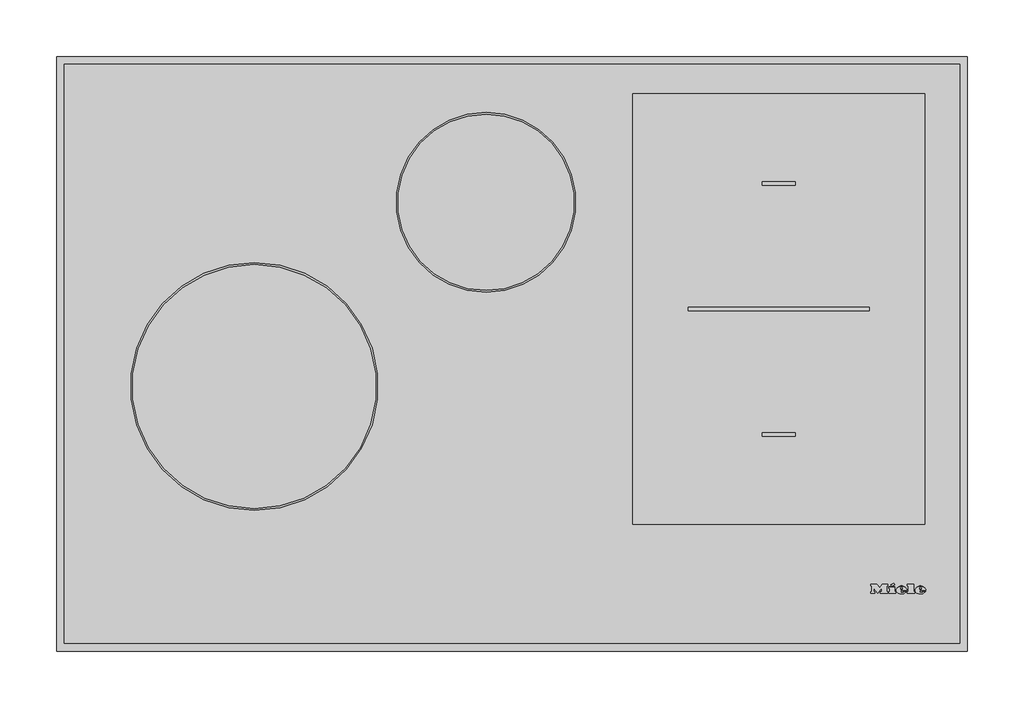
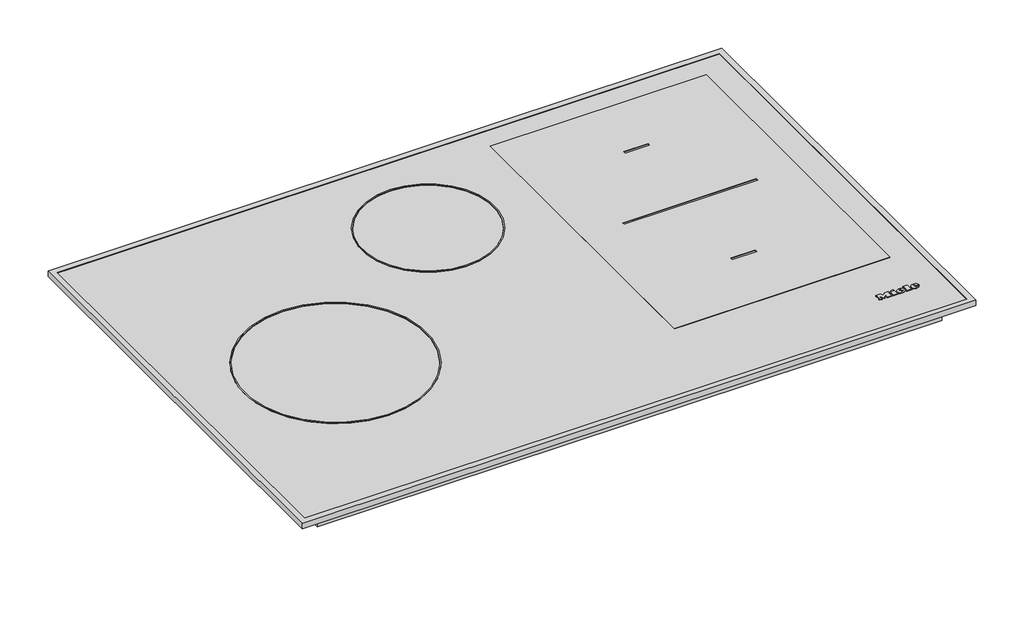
# Not in any storey: 1 proxy.
"""IFC4 building model written with IfcOpenShell, lengths in millimetres."""

import ifcopenshell
import ifcopenshell.guid

model = None  # the IFC model being written
_history = None  # IfcOwnerHistory: only IFC2X3 demands one
_inside = {}  # id of a spatial element -> (the spatial element, [elements in it])
_under = {}  # id of a project, library or spatial element -> (it, [spatial elements below it])
_declared = {}  # id of a project -> (the project, [libraries it declares])
_typed = {}  # id of a type object -> (the type object, [elements of that type])
_made_of = {}  # id of a material, layer set ... -> (it, [elements and type objects made of it])


def new_model(schema):
    """Start an empty IFC model of exactly this schema.

    Asked for "IFC4X3", IfcOpenShell would pick the latest addendum, in which some entities
    have other attributes; the version numbers below select the first issue.
    IFC2X3 requires an IfcOwnerHistory on every rooted entity: one is made here for all.
    """
    global model, _history
    if schema == "IFC4X3":
        model = ifcopenshell.file(schema_version=(4, 3, 0, 0))
    else:
        model = ifcopenshell.file(schema=schema)
    _inside.clear()
    _under.clear()
    _declared.clear()
    _typed.clear()
    _made_of.clear()
    _history = None
    if model.schema == "IFC2X3":
        org = make("IfcOrganization", Name="unknown")
        user = make(
            "IfcPersonAndOrganization",
            ThePerson=make("IfcPerson", FamilyName="unknown"),
            TheOrganization=org,
        )
        app = make(
            "IfcApplication",
            ApplicationDeveloper=org,
            Version="unknown",
            ApplicationFullName="unknown",
            ApplicationIdentifier="unknown",
        )
        _history = make(
            "IfcOwnerHistory",
            OwningUser=user,
            OwningApplication=app,
            ChangeAction="ADDED",
            CreationDate=0,
        )
    return model


def make(cls, **values):
    """One entity of the class cls with the attributes given. An attribute that is None is left unset."""
    return model.create_entity(
        cls, **{name: value for name, value in values.items() if value is not None}
    )


def rooted(cls, **values):
    """An entity with a GlobalId (a new one), such as an element, a storey or a relation."""
    return make(cls, GlobalId=ifcopenshell.guid.new(), OwnerHistory=_history, **values)


def si_unit(unit_type, name, prefix=None):
    """IfcSIUnit, for example si_unit("LENGTHUNIT", "METRE", prefix="MILLI")."""
    return make("IfcSIUnit", UnitType=unit_type, Prefix=prefix, Name=name)


def assignment(units):
    """IfcUnitAssignment: the units of a project."""
    return None if units is None else make("IfcUnitAssignment", Units=units)


def point(xyz):
    """IfcCartesianPoint."""
    return None if xyz is None else make("IfcCartesianPoint", Coordinates=xyz)


def direction(xyz):
    """IfcDirection."""
    return None if xyz is None else make("IfcDirection", DirectionRatios=xyz)


def frame(location, z_axis=None, x_axis=None):
    """IfcAxis2Placement3D, a coordinate frame: its origin and axes. An axis left out is left unset."""
    return make(
        "IfcAxis2Placement3D",
        Location=point(location),
        Axis=direction(z_axis),
        RefDirection=direction(x_axis),
    )


def frame_2d(location, x_axis=None):
    """IfcAxis2Placement2D, a coordinate frame in the plane: its origin and x axis."""
    return make(
        "IfcAxis2Placement2D", Location=point(location), RefDirection=direction(x_axis)
    )


def origin():
    """The frame at (0, 0, 0) with its axes left unset."""
    return frame((0.0, 0.0, 0.0))


def place(relative_to, where):
    """IfcLocalPlacement: puts the frame where relative to a parent placement (None: the world)."""
    return make(
        "IfcLocalPlacement", PlacementRelTo=relative_to, RelativePlacement=where
    )


def context(
    kind, dimensions, precision=None, world=None, true_north=None, identifier=None
):
    """IfcGeometricRepresentationContext, for example the 3D "Model" context."""
    return make(
        "IfcGeometricRepresentationContext",
        ContextIdentifier=identifier,
        ContextType=kind,
        CoordinateSpaceDimension=dimensions,
        Precision=precision,
        WorldCoordinateSystem=world,
        TrueNorth=true_north,
    )


def project(units=None, contexts=None):
    """IfcProject with its units and contexts."""
    return rooted(
        "IfcProject",
        Name="project",
        RepresentationContexts=contexts,
        UnitsInContext=assignment(units),
    )


def spatial(cls, under=None, at=None, **own):
    """A site, building, storey or space (cls), placed at a placement, below another one or the project."""
    s = rooted(cls, ObjectPlacement=at, **own)
    if under is not None:
        _under.setdefault(under.id(), (under, []))[1].append(s)
    return s


def polyline(points):
    """IfcPolyline through the points."""
    return make("IfcPolyline", Points=[point(p) for p in points])


def circle_curve(where, radius):
    """IfcCircle in the frame where."""
    return make("IfcCircle", Position=where, Radius=radius)


def ellipse_curve(where, semi_axis1, semi_axis2):
    """IfcEllipse in the frame where."""
    return make(
        "IfcEllipse", Position=where, SemiAxis1=semi_axis1, SemiAxis2=semi_axis2
    )


def trimmed(basis, trim1, trim2, sense, master):
    """IfcTrimmedCurve: the piece of a basis curve between two trims."""
    return make(
        "IfcTrimmedCurve",
        BasisCurve=basis,
        Trim1=trim1,
        Trim2=trim2,
        SenseAgreement=sense,
        MasterRepresentation=master,
    )


def segment(curve, same_sense, transition):
    """IfcCompositeCurveSegment."""
    return make(
        "IfcCompositeCurveSegment",
        Transition=transition,
        SameSense=same_sense,
        ParentCurve=curve,
    )


def composite_curve(segments, self_intersect=None):
    """IfcCompositeCurve: segments joined end to end."""
    return make("IfcCompositeCurve", Segments=segments, SelfIntersect=self_intersect)


def outline(outer, holes=None, kind="AREA"):
    """IfcArbitraryClosedProfileDef: a profile drawn as a closed curve; with holes, ...WithVoids."""
    if holes is None:
        return make("IfcArbitraryClosedProfileDef", ProfileType=kind, OuterCurve=outer)
    return make(
        "IfcArbitraryProfileDefWithVoids",
        ProfileType=kind,
        OuterCurve=outer,
        InnerCurves=holes,
    )


def extrude(swept, where, along, depth):
    """IfcExtrudedAreaSolid: the profile swept, set in the frame where, extruded along a direction by depth."""
    return make(
        "IfcExtrudedAreaSolid",
        SweptArea=swept,
        Position=where,
        ExtrudedDirection=direction(along),
        Depth=depth,
    )


def faces_of(points, faces, orient=None, outer=None):
    """IfcFace entities. A face is a list of loops; a loop is a list of indices into points, from 0.

    orient and outer hold one flag for each loop. By default every Orientation is true, the
    first loop of a face is its IfcFaceOuterBound and the others are IfcFaceBound.
    """
    made = []
    for i, loops in enumerate(faces):
        bounds = []
        for j, loop in enumerate(loops):
            is_outer = j == 0 if outer is None else outer[i][j]
            bounds.append(
                make(
                    "IfcFaceOuterBound" if is_outer else "IfcFaceBound",
                    Bound=make("IfcPolyLoop", Polygon=[points[k] for k in loop]),
                    Orientation=True if orient is None else orient[i][j],
                )
            )
        made.append(make("IfcFace", Bounds=bounds))
    return made


def faceted_brep(points, faces, orient=None, outer=None, voids=None):
    """IfcFacetedBrep: a solid bounded by flat faces; with voids (closed shells), ...WithVoids."""
    shared = [point(p) for p in points]
    hull = make("IfcClosedShell", CfsFaces=faces_of(shared, faces, orient, outer))
    if voids is None:
        return make("IfcFacetedBrep", Outer=hull)
    return make(
        "IfcFacetedBrepWithVoids",
        Outer=hull,
        Voids=[
            make(cls, CfsFaces=faces_of(shared, fs, o, b)) for cls, fs, o, b in voids
        ],
    )


def shape(context_of_items, identifier, shape_type, items):
    """IfcShapeRepresentation: the items that make up one representation, for example the "Body"."""
    return make(
        "IfcShapeRepresentation",
        ContextOfItems=context_of_items,
        RepresentationIdentifier=identifier,
        RepresentationType=shape_type,
        Items=items,
    )


def source(mapping_origin, context_of_items, identifier, shape_type, items):
    """IfcRepresentationMap: a shape defined once, which mapped items show again and again."""
    return make(
        "IfcRepresentationMap",
        MappingOrigin=mapping_origin,
        MappedRepresentation=shape(context_of_items, identifier, shape_type, items),
    )


def transform(
    local_origin,
    x_axis=None,
    y_axis=None,
    z_axis=None,
    scale=None,
    scale2=None,
    scale3=None,
    uniform=True,
):
    """IfcCartesianTransformationOperator3D, or its non-uniform kind. x_axis, y_axis, z_axis: its Axis1, 2, 3."""
    if uniform:
        return make(
            "IfcCartesianTransformationOperator3D",
            Axis1=direction(x_axis),
            Axis2=direction(y_axis),
            LocalOrigin=point(local_origin),
            Scale=scale,
            Axis3=direction(z_axis),
        )
    return make(
        "IfcCartesianTransformationOperator3DnonUniform",
        Axis1=direction(x_axis),
        Axis2=direction(y_axis),
        LocalOrigin=point(local_origin),
        Scale=scale,
        Axis3=direction(z_axis),
        Scale2=scale2,
        Scale3=scale3,
    )


def mapped(mapping_source, mapping_target):
    """IfcMappedItem: shows the shape of a source again, moved by a transform."""
    return make(
        "IfcMappedItem", MappingSource=mapping_source, MappingTarget=mapping_target
    )


def made_of(thing, what):
    """Note that an element or type object is made of a material, layer set ...; save() writes the relation."""
    if what is not None:
        _made_of.setdefault(what.id(), (what, []))[1].append(thing)
    return thing


def element(
    cls,
    number,
    at=None,
    inside=None,
    cuts=None,
    type_object=None,
    material=None,
    context=None,
    identifier="Body",
    shape_type=None,
    held_by="IfcProductDefinitionShape",
    body=None,
    shapes=None,
    **own,
):
    """One element of the class cls, such as IfcWall. Its Tag is "e" and its number.

    at: its placement. inside: the storey or other place that contains it. cuts: it is an
    opening in that element (IfcRelVoidsElement). A single representation is given by context,
    identifier, shape_type and body (its items); several are given by shapes. held_by: the class
    of the entity that holds the representations. save() writes the other relations.
    """
    e = rooted(cls, Tag="e%d" % number, ObjectPlacement=at, **own)
    if body is not None:
        shapes = [shape(context, identifier, shape_type, body)]
    if shapes is not None:
        e.Representation = make(held_by, Representations=shapes)
    if inside is not None:
        _inside.setdefault(inside.id(), (inside, []))[1].append(e)
    if cuts is not None:
        rooted(
            "IfcRelVoidsElement", RelatingBuildingElement=cuts, RelatedOpeningElement=e
        )
    if type_object is not None:
        _typed.setdefault(type_object.id(), (type_object, []))[1].append(e)
    return made_of(e, material)


def aggregate(whole, parts):
    """IfcRelAggregates: a whole, such as a stair, and the parts it consists of."""
    return rooted("IfcRelAggregates", RelatingObject=whole, RelatedObjects=parts)


def save(model, path):
    """Write the relations noted so far, then the file.

    IfcRelAggregates (storeys below a building ...), IfcRelContainedInSpatialStructure (elements
    in a storey), IfcRelDefinesByType, IfcRelAssociatesMaterial and IfcRelDeclares: one each for
    every whole, place, type object, material and project.
    """
    for whole, parts in _under.values():
        aggregate(whole, parts)
    for where, things in _inside.values():
        rooted(
            "IfcRelContainedInSpatialStructure",
            RelatedElements=things,
            RelatingStructure=where,
        )
    for kind, things in _typed.values():
        rooted("IfcRelDefinesByType", RelatedObjects=things, RelatingType=kind)
    for what, things in _made_of.values():
        rooted("IfcRelAssociatesMaterial", RelatedObjects=things, RelatingMaterial=what)
    for by, libraries in _declared.values():
        rooted("IfcRelDeclares", RelatingContext=by, RelatedDefinitions=libraries)
    model.write(path)


def plane_surface(at):
    """IfcPlane: the flat surface through the origin of the frame at, square to its z axis."""
    return make("IfcPlane", Position=at)


def cylinder_surface(at, radius):
    """IfcCylindricalSurface: all points at the distance radius from the z axis of the frame at."""
    return make("IfcCylindricalSurface", Position=at, Radius=radius)


def revolved_surface(curve, axis_point, axis_direction):
    """IfcSurfaceOfRevolution: the curve turned about the line through axis_point along axis_direction."""
    return make(
        "IfcSurfaceOfRevolution",
        SweptCurve=make("IfcArbitraryOpenProfileDef", ProfileType="CURVE", Curve=curve),
        AxisPosition=make("IfcAxis1Placement", Location=point(axis_point), Axis=direction(axis_direction)),
    )


def extruded_surface(curve, direction_of_extrusion, depth):
    """IfcSurfaceOfLinearExtrusion: the curve pushed along a direction by depth."""
    return make(
        "IfcSurfaceOfLinearExtrusion",
        SweptCurve=make("IfcArbitraryOpenProfileDef", ProfileType="CURVE", Curve=curve),
        ExtrudedDirection=direction(direction_of_extrusion),
        Depth=depth,
    )


def advanced_brep(points, edges, surfaces, faces):
    """IfcAdvancedBrep: a solid bounded by faces that lie on surfaces and meet in shared edges.

    An edge is (start, end): straight between two places in points (the first is 0);
    or (start, end, curve); or (start, end, curve, False) where it runs against its curve.
    A face is (place in surfaces, loops), or (place, loops, False) where it looks against
    its surface's normal. A loop lists edges by number (the first is 1), with a minus sign
    where the edge is run from its end to its start. The first loop is the outer one.
    """
    corners = [point(p) for p in points]
    vertices = [make("IfcVertexPoint", VertexGeometry=c) for c in corners]
    made = []
    for start, end, *more in edges:
        made.append(
            make(
                "IfcEdgeCurve",
                EdgeStart=vertices[start],
                EdgeEnd=vertices[end],
                EdgeGeometry=more[0] if more else make("IfcPolyline", Points=[corners[start], corners[end]]),
                SameSense=more[1] if len(more) > 1 else True,
            )
        )
    hull = []
    for where, loops, *sense in faces:
        bounds = []
        for j, loop in enumerate(loops):
            ring = [make("IfcOrientedEdge", EdgeElement=made[abs(k) - 1], Orientation=k > 0) for k in loop]
            bounds.append(
                make(
                    "IfcFaceOuterBound" if j == 0 else "IfcFaceBound",
                    Bound=make("IfcEdgeLoop", EdgeList=ring),
                    Orientation=True,
                )
            )
        hull.append(make("IfcAdvancedFace", Bounds=bounds, FaceSurface=surfaces[where], SameSense=sense[0] if sense else True))
    return make("IfcAdvancedBrep", Outer=make("IfcClosedShell", CfsFaces=hull))


def specialty_equipment_a710ed4d(model_context):
    return source(origin(), model_context, "Body", "SolidModel", [
        advanced_brep(
        [(360.648, 52.8948833, 6.9922537), (360.648, 53.7028828, 6.9931551), (366.0, 53.7028828, 6.9931551), (356.688, 53.7028828, 6.9931551), (358.888, 50.9988845, 6.9901386), (365.864, 52.8948833, 6.9922537), (363.448, 52.8948833, 6.9922537), (361.544, 51.9988838, 6.9912542), (360.648, 54.7268821, 6.9942974), (360.648, 55.5988816, 6.9952701), (362.016, 55.5988816, 6.9952701), (362.016, 54.7268821, 6.9942974), (360.648, 52.8959988, 5.9922543), (361.544, 51.9999994, 5.9912548), (363.448, 52.8959988, 5.9922543), (365.864, 52.8959988, 5.9922543), (358.888, 51.0, 5.9901393), (356.688, 53.7039983, 5.9931557), (366.0, 53.7039983, 5.9931557), (360.648, 53.7039983, 5.9931557), (360.648, 54.7279977, 5.994298), (362.016, 54.7279977, 5.994298), (362.016, 55.5999971, 5.9952707), (360.648, 55.5999971, 5.9952707)],
        [
            (0, 1),
            (1, 2),
            (2, 3, ellipse_curve(frame((361.344, 53.7028828, 6.9931551), z_axis=(0.0, -0.0011155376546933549, 0.9999993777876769), x_axis=(-1.0, 0.0, 0.0)), 4.656, 3.848)),
            (3, 4, circle_curve(frame((359.7840436, 53.9748826, 6.9934585), z_axis=(0.0, -0.0011155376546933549, 0.9999993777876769), x_axis=(0.0, -0.9999993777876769, -0.0011155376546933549)), 3.1079688)),
            (4, 5, circle_curve(frame((361.2507936, 56.0868813, 6.9958145), z_axis=(0.0, -0.0011155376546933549, 0.9999993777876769), x_axis=(0.0, -0.9999993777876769, -0.0011155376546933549)), 5.6098607)),
            (5, 6),
            (6, 7, circle_curve(frame((361.9350588, 53.6388828, 6.9930837), z_axis=(0.0, 0.0011155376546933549, -0.9999993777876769), x_axis=(0.0, -0.9999993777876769, -0.0011155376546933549)), 1.6859795)),
            (7, 0, circle_curve(frame((361.544, 52.8948833, 6.9922537), z_axis=(0.0, 0.0011155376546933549, -0.9999993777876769), x_axis=(0.0, -0.9999993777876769, -0.0011155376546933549)), 0.896)),
            (8, 9),
            (9, 10, circle_curve(frame((361.332, 55.5988816, 6.9952701), z_axis=(0.0, 0.0011155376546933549, -0.9999993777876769), x_axis=(0.0, -0.9999993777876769, -0.0011155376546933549)), 0.684)),
            (10, 11),
            (11, 8),
            (12, 13, circle_curve(frame((361.544, 52.8959988, 5.9922543), z_axis=(0.0, -0.0011155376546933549, 0.9999993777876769), x_axis=(0.0, -0.9999993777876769, -0.0011155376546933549)), 0.896)),
            (13, 14, circle_curve(frame((361.9350588, 53.6399984, 5.9930843), z_axis=(0.0, -0.0011155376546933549, 0.9999993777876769), x_axis=(0.0, -0.9999993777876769, -0.0011155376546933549)), 1.6859795)),
            (14, 15),
            (15, 16, circle_curve(frame((361.2507936, 56.0879968, 5.9958151), z_axis=(0.0, 0.0011155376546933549, -0.9999993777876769), x_axis=(0.0, -0.9999993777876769, -0.0011155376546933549)), 5.6098607)),
            (16, 17, circle_curve(frame((359.7840436, 53.9759981, 5.9934591), z_axis=(0.0, 0.0011155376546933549, -0.9999993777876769), x_axis=(0.0, -0.9999993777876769, -0.0011155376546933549)), 3.1079688)),
            (17, 18, ellipse_curve(frame((361.344, 53.7039983, 5.9931557), z_axis=(0.0, 0.0011155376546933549, -0.9999993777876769), x_axis=(-1.0, 0.0, 0.0)), 4.656, 3.848)),
            (18, 19),
            (19, 12),
            (20, 21),
            (21, 22),
            (22, 23, circle_curve(frame((361.332, 55.5999971, 5.9952707), z_axis=(0.0, -0.0011155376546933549, 0.9999993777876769), x_axis=(0.0, -0.9999993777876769, -0.0011155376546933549)), 0.684)),
            (23, 20),
            (0, 12),
            (19, 1),
            (18, 2),
            (5, 15),
            (14, 6),
            (17, 3),
            (13, 7),
            (16, 4),
            (8, 20),
            (23, 9),
            (22, 10),
            (21, 11),
        ],
        [
            plane_surface(frame((360.648, 53.7028828, 6.9931551), z_axis=(0.0, -0.0011155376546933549, 0.9999993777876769), x_axis=(0.0, 0.9999993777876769, 0.0011155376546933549))),
            plane_surface(frame((360.648, 53.7039983, 5.9931557), z_axis=(0.0, 0.0011155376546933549, -0.9999993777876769), x_axis=(0.0, -0.9999993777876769, -0.0011155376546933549))),
            plane_surface(frame((360.648, 52.8948833, 6.9922537), z_axis=(1.0000000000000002, 0.0, 0.0), x_axis=(0.0, 0.001115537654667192, -0.999999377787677))),
            plane_surface(frame((360.648, 53.7028828, 6.9931551), z_axis=(0.0, -0.999999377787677, -0.001115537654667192), x_axis=(0.0, 0.001115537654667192, -0.999999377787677))),
            plane_surface(frame((365.864, 52.8948833, 6.9922537), z_axis=(0.0, 0.999999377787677, 0.001115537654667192), x_axis=(0.0, 0.001115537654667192, -0.999999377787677))),
            extruded_surface(trimmed(ellipse_curve(frame((361.344, 53.7051139, 4.9931563), z_axis=(0.0, -0.0011155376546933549, 0.9999993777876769), x_axis=(-1.0, 0.0, 0.0)), 4.656, 3.848), [point((366.0, 53.7051139, 4.9931563))], [point((356.688, 53.7051139, 4.9931563))], True, "CARTESIAN"), (0.0, -0.001115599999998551, 0.9999994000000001), 1.00000002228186),
            revolved_surface(polyline([(361.9350588, 51.954019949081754, 5.991203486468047), (361.9350588, 51.95290441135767, 6.99120292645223)]), (361.9350588, 53.6399984, 5.9930843), (0.0, 0.0011155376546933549, -0.9999993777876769)),
            revolved_surface(polyline([(361.544, 51.99999935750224, 5.9912547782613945), (361.544, 51.99888381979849, 6.991254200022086)]), (361.544, 52.8959988, 5.9922543), (0.0, 0.0011155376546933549, -0.9999993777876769)),
            cylinder_surface(frame((359.7840436, 53.9759981, 5.9934591), z_axis=(0.0, -0.0011155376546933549, 0.9999993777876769), x_axis=(0.0, -0.9999993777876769, -0.0011155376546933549)), 3.1079688),
            cylinder_surface(frame((361.2507936, 56.0879968, 5.9958151), z_axis=(0.0, -0.0011155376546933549, 0.9999993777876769), x_axis=(0.0, -0.9999993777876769, -0.0011155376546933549)), 5.6098607),
            plane_surface(frame((360.648, 54.7268821, 6.9942974), z_axis=(1.0000000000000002, 0.0, 0.0), x_axis=(0.0, 0.001115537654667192, -0.999999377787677))),
            revolved_surface(polyline([(361.332, 54.915997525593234, 5.99450767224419), (361.332, 54.91488198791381, 6.994507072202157)]), (361.332, 55.5999971, 5.9952707), (0.0, 0.0011155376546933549, -0.9999993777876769)),
            plane_surface(frame((362.016, 55.5988816, 6.9952701), z_axis=(-1.0000000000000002, 0.0, 0.0), x_axis=(0.0, 0.001115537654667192, -0.999999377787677))),
            plane_surface(frame((362.016, 54.7268821, 6.9942974), z_axis=(0.0, 0.999999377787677, 0.001115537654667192), x_axis=(0.0, 0.001115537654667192, -0.999999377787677))),
        ],
        [
            (0, [[1, 2, 3, 4, 5, 6, 7, 8], [9, 10, 11, 12]]),
            (1, [[13, 14, 15, 16, 17, 18, 19, 20], [21, 22, 23, 24]]),
            (2, [[-1, 25, -20, 26]]),
            (3, [[-2, -26, -19, 27]]),
            (4, [[-6, 28, -15, 29]]),
            (5, [[-3, -27, -18, 30]]),
            (6, [[-7, -29, -14, 31]]),
            (7, [[-8, -31, -13, -25]]),
            (8, [[-4, -30, -17, 32]]),
            (9, [[-5, -32, -16, -28]]),
            (10, [[-9, 33, -24, 34]]),
            (11, [[-10, -34, -23, 35]]),
            (12, [[-11, -35, -22, 36]]),
            (13, [[-12, -36, -21, -33]]),
        ],
    ),
        advanced_brep(
        [(343.952, 52.8948833, 6.9922537), (343.952, 53.7028828, 6.9931551), (349.304, 53.7028828, 6.9931551), (339.992, 53.7028828, 6.9931551), (342.192, 50.9988845, 6.9901386), (349.168, 52.8948833, 6.9922537), (346.752, 52.8948833, 6.9922537), (344.848, 51.9988838, 6.9912542), (343.952, 54.7268821, 6.9942974), (343.952, 55.5988816, 6.9952701), (345.32, 55.5988816, 6.9952701), (345.32, 54.7268821, 6.9942974), (343.952, 52.8959988, 5.9922543), (344.848, 51.9999994, 5.9912548), (346.752, 52.8959988, 5.9922543), (349.168, 52.8959988, 5.9922543), (342.192, 51.0, 5.9901393), (339.992, 53.7039983, 5.9931557), (349.304, 53.7039983, 5.9931557), (343.952, 53.7039983, 5.9931557), (343.952, 54.7279977, 5.994298), (345.32, 54.7279977, 5.994298), (345.32, 55.5999971, 5.9952707), (343.952, 55.5999971, 5.9952707)],
        [
            (0, 1),
            (1, 2),
            (2, 3, ellipse_curve(frame((344.648, 53.7028828, 6.9931551), z_axis=(0.0, -0.0011155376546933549, 0.9999993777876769), x_axis=(-1.0, 0.0, 0.0)), 4.656, 3.848)),
            (3, 4, circle_curve(frame((343.0880436, 53.9748826, 6.9934585), z_axis=(0.0, -0.0011155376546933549, 0.9999993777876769), x_axis=(0.0, -0.9999993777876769, -0.0011155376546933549)), 3.1079688)),
            (4, 5, circle_curve(frame((344.5547936, 56.0868813, 6.9958145), z_axis=(0.0, -0.0011155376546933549, 0.9999993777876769), x_axis=(0.0, -0.9999993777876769, -0.0011155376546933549)), 5.6098607)),
            (5, 6),
            (6, 7, circle_curve(frame((345.2390588, 53.6388828, 6.9930837), z_axis=(0.0, 0.0011155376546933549, -0.9999993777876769), x_axis=(0.0, -0.9999993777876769, -0.0011155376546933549)), 1.6859795)),
            (7, 0, circle_curve(frame((344.848, 52.8948833, 6.9922537), z_axis=(0.0, 0.0011155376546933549, -0.9999993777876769), x_axis=(0.0, -0.9999993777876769, -0.0011155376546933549)), 0.896)),
            (8, 9),
            (9, 10, circle_curve(frame((344.636, 55.5988816, 6.9952701), z_axis=(0.0, 0.0011155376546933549, -0.9999993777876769), x_axis=(0.0, -0.9999993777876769, -0.0011155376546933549)), 0.684)),
            (10, 11),
            (11, 8),
            (12, 13, circle_curve(frame((344.848, 52.8959988, 5.9922543), z_axis=(0.0, -0.0011155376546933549, 0.9999993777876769), x_axis=(0.0, -0.9999993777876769, -0.0011155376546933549)), 0.896)),
            (13, 14, circle_curve(frame((345.2390588, 53.6399984, 5.9930843), z_axis=(0.0, -0.0011155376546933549, 0.9999993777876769), x_axis=(0.0, -0.9999993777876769, -0.0011155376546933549)), 1.6859795)),
            (14, 15),
            (15, 16, circle_curve(frame((344.5547936, 56.0879968, 5.9958151), z_axis=(0.0, 0.0011155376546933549, -0.9999993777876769), x_axis=(0.0, -0.9999993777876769, -0.0011155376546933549)), 5.6098607)),
            (16, 17, circle_curve(frame((343.0880436, 53.9759981, 5.9934591), z_axis=(0.0, 0.0011155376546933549, -0.9999993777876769), x_axis=(0.0, -0.9999993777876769, -0.0011155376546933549)), 3.1079688)),
            (17, 18, ellipse_curve(frame((344.648, 53.7039983, 5.9931557), z_axis=(0.0, 0.0011155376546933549, -0.9999993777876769), x_axis=(-1.0, 0.0, 0.0)), 4.656, 3.848)),
            (18, 19),
            (19, 12),
            (20, 21),
            (21, 22),
            (22, 23, circle_curve(frame((344.636, 55.5999971, 5.9952707), z_axis=(0.0, -0.0011155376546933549, 0.9999993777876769), x_axis=(0.0, -0.9999993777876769, -0.0011155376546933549)), 0.684)),
            (23, 20),
            (0, 12),
            (19, 1),
            (18, 2),
            (5, 15),
            (14, 6),
            (17, 3),
            (13, 7),
            (16, 4),
            (8, 20),
            (23, 9),
            (22, 10),
            (21, 11),
        ],
        [
            plane_surface(frame((343.952, 53.7028828, 6.9931551), z_axis=(0.0, -0.0011155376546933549, 0.9999993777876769), x_axis=(0.0, 0.9999993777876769, 0.0011155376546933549))),
            plane_surface(frame((343.952, 53.7039983, 5.9931557), z_axis=(0.0, 0.0011155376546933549, -0.9999993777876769), x_axis=(0.0, -0.9999993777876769, -0.0011155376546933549))),
            plane_surface(frame((343.952, 52.8948833, 6.9922537), z_axis=(1.0000000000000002, 0.0, 0.0), x_axis=(0.0, 0.001115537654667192, -0.999999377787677))),
            plane_surface(frame((343.952, 53.7028828, 6.9931551), z_axis=(0.0, -0.999999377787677, -0.001115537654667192), x_axis=(0.0, 0.001115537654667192, -0.999999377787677))),
            plane_surface(frame((349.168, 52.8948833, 6.9922537), z_axis=(0.0, 0.999999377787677, 0.001115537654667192), x_axis=(0.0, 0.001115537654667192, -0.999999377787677))),
            extruded_surface(trimmed(ellipse_curve(frame((344.648, 53.7051139, 4.9931563), z_axis=(0.0, -0.0011155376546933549, 0.9999993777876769), x_axis=(-1.0, 0.0, 0.0)), 4.656, 3.848), [point((349.304, 53.7051139, 4.9931563))], [point((339.992, 53.7051139, 4.9931563))], True, "CARTESIAN"), (0.0, -0.001115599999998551, 0.9999994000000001), 1.00000002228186),
            revolved_surface(polyline([(345.2390588, 51.954019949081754, 5.991203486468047), (345.2390588, 51.95290441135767, 6.99120292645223)]), (345.2390588, 53.6399984, 5.9930843), (0.0, 0.0011155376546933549, -0.9999993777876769)),
            revolved_surface(polyline([(344.848, 51.99999935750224, 5.9912547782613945), (344.848, 51.99888381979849, 6.991254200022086)]), (344.848, 52.8959988, 5.9922543), (0.0, 0.0011155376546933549, -0.9999993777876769)),
            cylinder_surface(frame((343.0880436, 53.9759981, 5.9934591), z_axis=(0.0, -0.0011155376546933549, 0.9999993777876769), x_axis=(0.0, -0.9999993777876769, -0.0011155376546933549)), 3.1079688),
            cylinder_surface(frame((344.5547936, 56.0879968, 5.9958151), z_axis=(0.0, -0.0011155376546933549, 0.9999993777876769), x_axis=(0.0, -0.9999993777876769, -0.0011155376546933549)), 5.6098607),
            plane_surface(frame((343.952, 54.7268821, 6.9942974), z_axis=(1.0000000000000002, 0.0, 0.0), x_axis=(0.0, 0.001115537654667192, -0.999999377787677))),
            revolved_surface(polyline([(344.636, 54.915997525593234, 5.99450767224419), (344.636, 54.91488198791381, 6.994507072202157)]), (344.636, 55.5999971, 5.9952707), (0.0, 0.0011155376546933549, -0.9999993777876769)),
            plane_surface(frame((345.32, 55.5988816, 6.9952701), z_axis=(-1.0000000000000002, 0.0, 0.0), x_axis=(0.0, 0.001115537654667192, -0.999999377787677))),
            plane_surface(frame((345.32, 54.7268821, 6.9942974), z_axis=(0.0, 0.999999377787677, 0.001115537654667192), x_axis=(0.0, 0.001115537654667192, -0.999999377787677))),
        ],
        [
            (0, [[1, 2, 3, 4, 5, 6, 7, 8], [9, 10, 11, 12]]),
            (1, [[13, 14, 15, 16, 17, 18, 19, 20], [21, 22, 23, 24]]),
            (2, [[-1, 25, -20, 26]]),
            (3, [[-2, -26, -19, 27]]),
            (4, [[-6, 28, -15, 29]]),
            (5, [[-3, -27, -18, 30]]),
            (6, [[-7, -29, -14, 31]]),
            (7, [[-8, -31, -13, -25]]),
            (8, [[-4, -30, -17, 32]]),
            (9, [[-5, -32, -16, -28]]),
            (10, [[-9, 33, -24, 34]]),
            (11, [[-10, -34, -23, 35]]),
            (12, [[-11, -35, -22, 36]]),
            (13, [[-12, -36, -21, -33]]),
        ],
    ),
        extrude(outline(polyline([(0.0, 0.0), (-0.0109086, -2.9993294), (-1.4390415, -2.9920868), (-1.4315307, 0.0), (0.0, 0.0)])), frame((335.208, 58.5279953, 5.998537), z_axis=(0.0, -0.001115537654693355, 0.999999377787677), x_axis=(-0.4247202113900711, 0.9053240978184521, 0.0010099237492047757)), (0.0, 0.0, 1.0), 1.0),
        extrude(outline(polyline([(-0.4933908, 2.4141097), (-2.7800844, -2.4601583), (-7.0459741, -0.4588767), (-7.4401145, -1.299018), (-8.6568709, -0.728194), (-5.9760369, 4.9862153), (-4.7592805, 4.4153913), (-5.1636142, 3.5535222), (-2.1941493, 2.1604399), (-1.7898157, 3.022309), (-0.4933908, 2.4141097)])), frame((335.208, 58.5279953, 5.998537), z_axis=(0.0, -0.001115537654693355, 0.999999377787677), x_axis=(-0.4247202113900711, 0.9053240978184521, 0.0010099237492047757)), (0.0, 0.0, 1.0), 1.0),
        extrude(outline(polyline([(0.0, 0.0), (0.0, -1.304), (-5.504, -1.304), (-5.504, 5.3519999), (-6.488, 5.3519999), (-6.488, 6.696), (0.0, 6.696), (0.0, 5.3519999), (-0.96, 5.3519999), (-0.96, 0.0), (0.0, 0.0)])), frame((349.752, 57.6959958, 5.9976089), z_axis=(0.0, -0.0011155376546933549, 0.9999993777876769), x_axis=(-1.0, 0.0, 0.0)), (0.0, 0.0, 1.0), 1.0),
        extrude(outline(polyline([(0.0, 0.0), (0.0, -1.304), (-5.576, -1.304), (-7.92, 1.696), (-10.256, -1.304), (-15.128, -1.304), (-15.128, 0.0), (-14.112, 0.0), (-14.112, 5.3519999), (-15.128, 5.3519999), (-15.128, 6.696), (-8.744, 6.696), (-8.744, 5.3519999), (-9.728, 5.3519999), (-9.728, 1.8807777), (-6.136, 6.696), (-2.56, 1.9488752), (-2.56, 5.3519999), (-3.52, 5.3519999), (-3.52, 6.696), (0.0, 6.696), (0.0, 5.3519999), (-0.968, 5.3519999), (-0.968, 0.0), (0.0, 0.0)])), frame((317.288, 57.6959958, 5.9976089), z_axis=(0.0, -0.0011155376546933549, 0.9999993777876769), x_axis=(-1.0, 0.0, 0.0)), (0.0, 0.0, 1.0), 1.0),
        extrude(outline(polyline([(182.3772603, 428.0), (175.0, 428.0), (175.0, 429.2557039), (181.1215564, 429.2557039), (181.1215564, 432.5519266), (175.470889, 432.5519266), (175.470889, 433.8076304), (181.1215564, 433.8076304), (181.1215564, 436.7899271), (175.156963, 436.7899271), (175.156963, 438.045631), (182.3772603, 438.045631), (182.3772603, 428.0)])), frame((0.0, 0.0, -76.0), z_axis=(0.0, 0.0, 1.0), x_axis=(1.0, 0.0, 0.0)), (0.0, 0.0, 1.0), 1.0),
        extrude(outline(polyline([(173.1164442, 428.0), (166.8379248, 428.0), (166.8379248, 429.2557039), (171.8607403, 429.2557039), (171.8607403, 438.045631), (173.1164442, 438.045631), (173.1164442, 428.0)])), frame((0.0, 0.0, -76.0), z_axis=(0.0, 0.0, 1.0), x_axis=(1.0, 0.0, 0.0)), (0.0, 0.0, 1.0), 1.0),
        extrude(outline(polyline([(402.0, 524.0), (402.0, 1.0), (-402.0, 1.0), (-402.0, 524.0), (402.0, 524.0)])), frame((0.0, 0.0, 2.0), z_axis=(0.0, 0.0, 1.0), x_axis=(1.0, 0.0, 0.0)), (0.0, 0.0, 1.0), 4.0),
        extrude(outline(polyline([(373.5, 506.5), (373.5, 19.5), (-373.5, 19.5), (-373.5, 506.5), (373.5, 506.5)])), frame((0.0, 0.0, -20.0), z_axis=(0.0, 0.0, 1.0), x_axis=(1.0, 0.0, 0.0)), (0.0, 0.0, 1.0), 22.0),
        faceted_brep([(396.0, 519.0, 7.0), (396.0, 519.0, 6.0), (396.0, 7.0, 6.0), (396.0, 7.0, 7.0), (403.0, 526.0, 0.0), (403.0, 526.0, 7.0), (403.0, 0.0, 7.0), (403.0, 0.0, 0.0), (402.0, 525.0, 6.0), (402.0, 525.0, 0.0), (402.0, 1.0, 0.0), (402.0, 1.0, 6.0), (-396.0, 7.0, 6.0), (-396.0, 7.0, 7.0), (-403.0, 0.0, 7.0), (-403.0, 0.0, 0.0), (-402.0, 1.0, 0.0), (-402.0, 1.0, 6.0), (-396.0, 519.0, 6.0), (-396.0, 519.0, 7.0), (-403.0, 526.0, 7.0), (-403.0, 526.0, 0.0), (-402.0, 525.0, 0.0), (-402.0, 525.0, 6.0)], [[[0, 1, 2, 3]], [[4, 5, 6, 7]], [[8, 9, 10, 11]], [[3, 2, 12, 13]], [[7, 6, 14, 15]], [[11, 10, 16, 17]], [[13, 12, 18, 19]], [[15, 14, 20, 21]], [[17, 16, 22, 23]], [[19, 18, 1, 0]], [[5, 20, 14, 6], [3, 13, 19, 0]], [[21, 20, 5, 4]], [[7, 15, 21, 4], [9, 22, 16, 10]], [[23, 22, 9, 8]], [[11, 17, 23, 8], [1, 18, 12, 2]]]),
        extrude(outline(composite_curve([segment(trimmed(circle_curve(frame_2d((-23.0, 397.0)), 79.5), [point((-23.0, 476.5))], [point((-23.0, 317.5))], False, "CARTESIAN"), True, "CONTINUOUS"), segment(trimmed(circle_curve(frame_2d((-23.0, 397.0)), 79.5), [point((-23.0, 317.5))], [point((-23.0, 476.5))], False, "CARTESIAN"), True, "CONTINUOUS")], self_intersect=False), holes=[composite_curve([segment(trimmed(circle_curve(frame_2d((-23.0, 397.0)), 78.0), [point((-23.0, 475.0))], [point((-23.0, 319.0))], True, "CARTESIAN"), True, "CONTINUOUS"), segment(trimmed(circle_curve(frame_2d((-23.0, 397.0)), 78.0), [point((-23.0, 319.0))], [point((-23.0, 475.0))], True, "CARTESIAN"), True, "CONTINUOUS")], self_intersect=False)]), frame((0.0, 0.0, 6.0), z_axis=(0.0, 0.0, 1.0), x_axis=(1.0, 0.0, 0.0)), (0.0, 0.0, 1.0), 1.0),
        extrude(outline(composite_curve([segment(trimmed(circle_curve(frame_2d((-228.0, 234.0)), 109.5), [point((-228.0, 343.5))], [point((-228.0, 124.5))], False, "CARTESIAN"), True, "CONTINUOUS"), segment(trimmed(circle_curve(frame_2d((-228.0, 234.0)), 109.5), [point((-228.0, 124.5))], [point((-228.0, 343.5))], False, "CARTESIAN"), True, "CONTINUOUS")], self_intersect=False), holes=[composite_curve([segment(trimmed(circle_curve(frame_2d((-228.0, 234.0)), 108.0), [point((-228.0, 342.0))], [point((-228.0, 126.0))], True, "CARTESIAN"), True, "CONTINUOUS"), segment(trimmed(circle_curve(frame_2d((-228.0, 234.0)), 108.0), [point((-228.0, 126.0))], [point((-228.0, 342.0))], True, "CARTESIAN"), True, "CONTINUOUS")], self_intersect=False)]), frame((0.0, 0.0, 6.0), z_axis=(0.0, 0.0, 1.0), x_axis=(1.0, 0.0, 0.0)), (0.0, 0.0, 1.0), 1.0),
        extrude(outline(polyline([(365.0, 493.0), (365.0, 112.0), (107.0, 112.0), (107.0, 493.0), (365.0, 493.0)]), holes=[polyline([(250.5, 415.0), (221.5, 415.0), (221.5, 412.0), (250.5, 412.0), (250.5, 415.0)]), polyline([(316.0, 301.0), (316.0, 304.0), (156.0, 304.0), (156.0, 301.0), (316.0, 301.0)]), polyline([(250.5, 193.0), (221.5, 193.0), (221.5, 190.0), (250.5, 190.0), (250.5, 193.0)])]), frame((0.0, 0.0, 6.0), z_axis=(0.0, 0.0, 1.0), x_axis=(1.0, 0.0, 0.0)), (0.0, 0.0, 1.0), 1.0),
        extrude(outline(composite_curve([segment(trimmed(circle_curve(frame_2d((175.0, 433.0)), 7.5), [point((175.0, 440.5))], [point((175.0, 425.5))], False, "CARTESIAN"), True, "CONTINUOUS"), segment(trimmed(circle_curve(frame_2d((175.0, 433.0)), 7.5), [point((175.0, 425.5))], [point((175.0, 440.5))], False, "CARTESIAN"), True, "CONTINUOUS")], self_intersect=False)), frame((0.0, 0.0, -75.0), z_axis=(0.0, 0.0, 1.0), x_axis=(1.0, 0.0, 0.0)), (0.0, 0.0, 1.0), 30.0),
        extrude(outline(polyline([(253.0, 467.0), (253.0, 96.0), (-253.0, 96.0), (-253.0, 467.0), (253.0, 467.0)])), frame((0.0, 0.0, -45.0), z_axis=(0.0, 0.0, 1.0), x_axis=(1.0, 0.0, 0.0)), (0.0, 0.0, 1.0), 25.0),
    ])


model = new_model("IFC4")

# Units and contexts
model_context = context("Model", 3, world=origin())
ifc_project = project(units=[si_unit("LENGTHUNIT", "METRE", prefix="MILLI")], contexts=[model_context])

# Site, building
site = spatial("IfcSite", under=ifc_project)
building = spatial("IfcBuilding", under=site)

# Proxy
placement = place(None, origin())
specialty_equipment_shape = specialty_equipment_a710ed4d(model_context)
element("IfcBuildingElementProxy", 1, Name="11753830_BNE_KM7679FR : 26767900_BNE_11753830_KM7679FR", ObjectType="11753830_BNE_KM7679FR : 26767900_BNE_11753830_KM7679FR", at=placement, inside=building, context=model_context, shape_type="MappedRepresentation", body=[
    mapped(specialty_equipment_shape, transform((0.0, 0.0, 0.0), x_axis=(1.0, 0.0, 0.0), y_axis=(0.0, 1.0, 0.0), z_axis=(0.0, 0.0, 1.0))),
])

save(model, "model.ifc")
